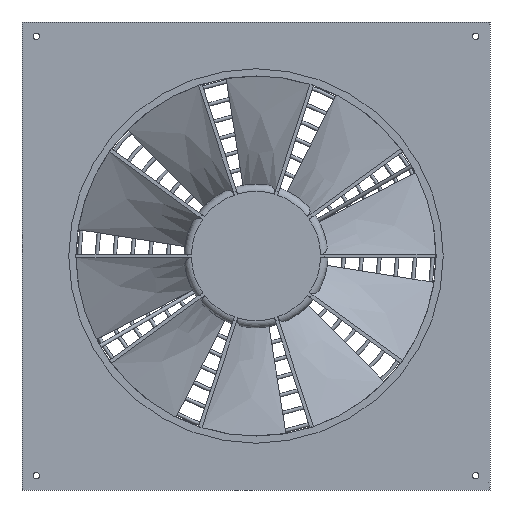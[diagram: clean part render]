
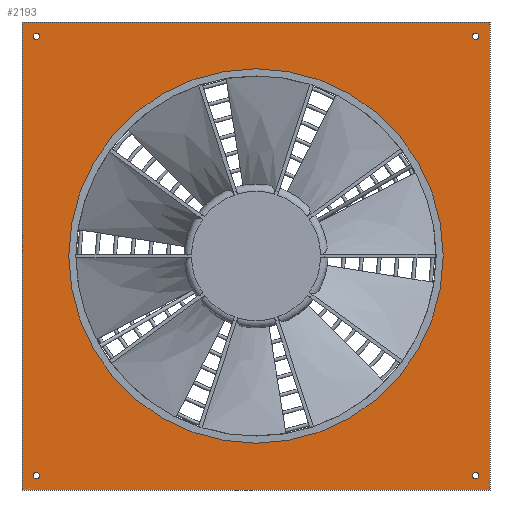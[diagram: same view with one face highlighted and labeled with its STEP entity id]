
A CAD part, front view. The second image highlights one B-rep face of the part: STEP entity #2193.
In plain terms, the highlighted planar face has unit normal (0, -1, 0).
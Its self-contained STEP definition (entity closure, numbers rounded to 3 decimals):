
#73=FACE_BOUND('',#680,.T.);
#74=FACE_BOUND('',#681,.T.);
#75=FACE_BOUND('',#682,.T.);
#76=FACE_BOUND('',#683,.T.);
#77=FACE_BOUND('',#684,.T.);
#105=PLANE('',#2412);
#298=LINE('',#4661,#389);
#300=LINE('',#4668,#391);
#302=LINE('',#4674,#393);
#303=LINE('',#4676,#394);
#389=VECTOR('',#2762,10.);
#391=VECTOR('',#2770,10.);
#393=VECTOR('',#2776,10.);
#394=VECTOR('',#2779,10.);
#560=FACE_OUTER_BOUND('',#679,.T.);
#679=EDGE_LOOP('',(#2063,#2064,#2065,#2066));
#680=EDGE_LOOP('',(#2067,#2068));
#681=EDGE_LOOP('',(#2069,#2070));
#682=EDGE_LOOP('',(#2071,#2072));
#683=EDGE_LOOP('',(#2073,#2074));
#684=EDGE_LOOP('',(#2075));
#790=CIRCLE('',#2395,4.5);
#791=CIRCLE('',#2396,4.5);
#792=CIRCLE('',#2398,4.5);
#793=CIRCLE('',#2399,4.5);
#794=CIRCLE('',#2401,4.5);
#795=CIRCLE('',#2402,4.5);
#796=CIRCLE('',#2404,4.5);
#797=CIRCLE('',#2405,4.5);
#799=CIRCLE('',#2408,262.);
#997=VERTEX_POINT('',#4658);
#998=VERTEX_POINT('',#4660);
#1000=VERTEX_POINT('',#4666);
#1002=VERTEX_POINT('',#4672);
#1007=VERTEX_POINT('',#5474);
#1008=VERTEX_POINT('',#5475);
#1009=VERTEX_POINT('',#5480);
#1010=VERTEX_POINT('',#5481);
#1011=VERTEX_POINT('',#5486);
#1012=VERTEX_POINT('',#5487);
#1013=VERTEX_POINT('',#5492);
#1014=VERTEX_POINT('',#5493);
#1016=VERTEX_POINT('',#5500);
#1288=EDGE_CURVE('',#998,#997,#298,.T.);
#1292=EDGE_CURVE('',#997,#1000,#300,.T.);
#1295=EDGE_CURVE('',#1000,#1002,#302,.T.);
#1296=EDGE_CURVE('',#1002,#998,#303,.T.);
#1354=EDGE_CURVE('',#1007,#1008,#790,.T.);
#1355=EDGE_CURVE('',#1008,#1007,#791,.T.);
#1357=EDGE_CURVE('',#1009,#1010,#792,.T.);
#1358=EDGE_CURVE('',#1010,#1009,#793,.T.);
#1360=EDGE_CURVE('',#1011,#1012,#794,.T.);
#1361=EDGE_CURVE('',#1012,#1011,#795,.T.);
#1363=EDGE_CURVE('',#1013,#1014,#796,.T.);
#1364=EDGE_CURVE('',#1014,#1013,#797,.T.);
#1368=EDGE_CURVE('',#1016,#1016,#799,.T.);
#2063=ORIENTED_EDGE('',*,*,#1288,.T.);
#2064=ORIENTED_EDGE('',*,*,#1292,.T.);
#2065=ORIENTED_EDGE('',*,*,#1295,.T.);
#2066=ORIENTED_EDGE('',*,*,#1296,.T.);
#2067=ORIENTED_EDGE('',*,*,#1354,.T.);
#2068=ORIENTED_EDGE('',*,*,#1355,.T.);
#2069=ORIENTED_EDGE('',*,*,#1357,.T.);
#2070=ORIENTED_EDGE('',*,*,#1358,.T.);
#2071=ORIENTED_EDGE('',*,*,#1360,.T.);
#2072=ORIENTED_EDGE('',*,*,#1361,.T.);
#2073=ORIENTED_EDGE('',*,*,#1363,.T.);
#2074=ORIENTED_EDGE('',*,*,#1364,.T.);
#2075=ORIENTED_EDGE('',*,*,#1368,.T.);
#2193=ADVANCED_FACE('',(#560,#73,#74,#75,#76,#77),#105,.F.);
#2395=AXIS2_PLACEMENT_3D('',#5476,#2847,#2848);
#2396=AXIS2_PLACEMENT_3D('',#5477,#2849,#2850);
#2398=AXIS2_PLACEMENT_3D('',#5482,#2854,#2855);
#2399=AXIS2_PLACEMENT_3D('',#5483,#2856,#2857);
#2401=AXIS2_PLACEMENT_3D('',#5488,#2861,#2862);
#2402=AXIS2_PLACEMENT_3D('',#5489,#2863,#2864);
#2404=AXIS2_PLACEMENT_3D('',#5494,#2868,#2869);
#2405=AXIS2_PLACEMENT_3D('',#5495,#2870,#2871);
#2408=AXIS2_PLACEMENT_3D('',#5502,#2878,#2879);
#2412=AXIS2_PLACEMENT_3D('',#5506,#2886,#2887);
#2762=DIRECTION('',(1.,0.,0.));
#2770=DIRECTION('',(0.,0.,1.));
#2776=DIRECTION('',(-1.,0.,0.));
#2779=DIRECTION('',(0.,0.,-1.));
#2847=DIRECTION('center_axis',(0.,1.,0.));
#2848=DIRECTION('ref_axis',(1.,0.,0.));
#2849=DIRECTION('center_axis',(0.,1.,0.));
#2850=DIRECTION('ref_axis',(1.,0.,0.));
#2854=DIRECTION('center_axis',(0.,1.,0.));
#2855=DIRECTION('ref_axis',(1.,0.,0.));
#2856=DIRECTION('center_axis',(0.,1.,0.));
#2857=DIRECTION('ref_axis',(1.,0.,0.));
#2861=DIRECTION('center_axis',(0.,1.,0.));
#2862=DIRECTION('ref_axis',(1.,0.,0.));
#2863=DIRECTION('center_axis',(0.,1.,0.));
#2864=DIRECTION('ref_axis',(1.,0.,0.));
#2868=DIRECTION('center_axis',(0.,1.,0.));
#2869=DIRECTION('ref_axis',(1.,0.,0.));
#2870=DIRECTION('center_axis',(0.,1.,0.));
#2871=DIRECTION('ref_axis',(1.,0.,0.));
#2878=DIRECTION('center_axis',(0.,1.,0.));
#2879=DIRECTION('ref_axis',(-1.,0.,0.));
#2886=DIRECTION('center_axis',(0.,1.,0.));
#2887=DIRECTION('ref_axis',(0.,0.,1.));
#4658=CARTESIAN_POINT('',(327.5,0.,-327.5));
#4660=CARTESIAN_POINT('',(-327.5,0.,-327.5));
#4661=CARTESIAN_POINT('',(-327.5,0.,-327.5));
#4666=CARTESIAN_POINT('',(327.5,0.,327.5));
#4668=CARTESIAN_POINT('',(327.5,0.,-327.5));
#4672=CARTESIAN_POINT('',(-327.5,0.,327.5));
#4674=CARTESIAN_POINT('',(327.5,0.,327.5));
#4676=CARTESIAN_POINT('',(-327.5,0.,327.5));
#5474=CARTESIAN_POINT('',(-303.,0.,-307.5));
#5475=CARTESIAN_POINT('',(-312.,0.,-307.5));
#5476=CARTESIAN_POINT('Origin',(-307.5,0.,-307.5));
#5477=CARTESIAN_POINT('Origin',(-307.5,0.,-307.5));
#5480=CARTESIAN_POINT('',(312.,0.,307.5));
#5481=CARTESIAN_POINT('',(303.,0.,307.5));
#5482=CARTESIAN_POINT('Origin',(307.5,0.,307.5));
#5483=CARTESIAN_POINT('Origin',(307.5,0.,307.5));
#5486=CARTESIAN_POINT('',(312.,0.,-307.5));
#5487=CARTESIAN_POINT('',(303.,0.,-307.5));
#5488=CARTESIAN_POINT('Origin',(307.5,0.,-307.5));
#5489=CARTESIAN_POINT('Origin',(307.5,0.,-307.5));
#5492=CARTESIAN_POINT('',(-303.,0.,307.5));
#5493=CARTESIAN_POINT('',(-312.,0.,307.5));
#5494=CARTESIAN_POINT('Origin',(-307.5,0.,307.5));
#5495=CARTESIAN_POINT('Origin',(-307.5,0.,307.5));
#5500=CARTESIAN_POINT('',(262.,0.,0.));
#5502=CARTESIAN_POINT('Origin',(0.,0.,0.));
#5506=CARTESIAN_POINT('Origin',(0.,0.,0.));
